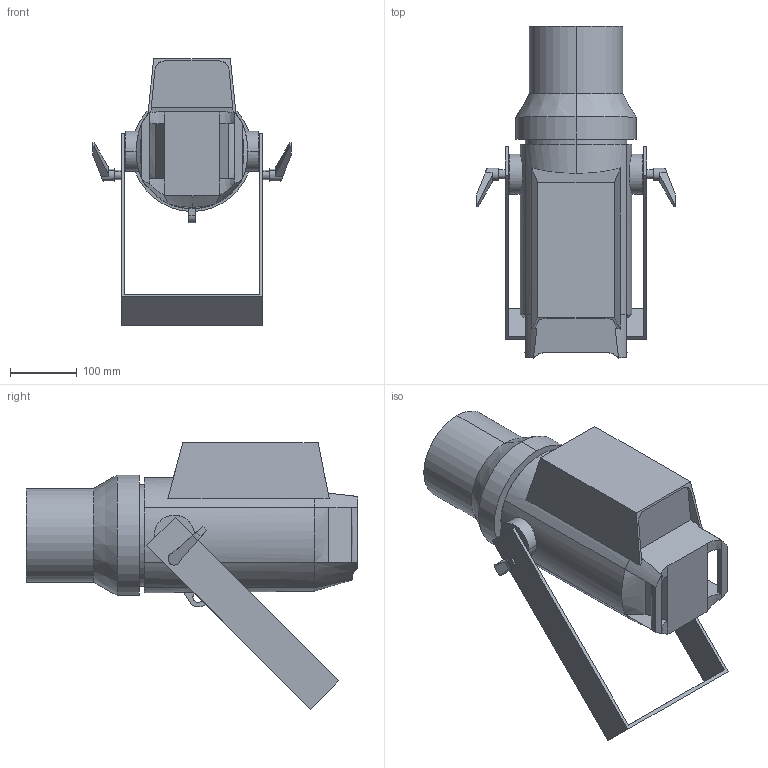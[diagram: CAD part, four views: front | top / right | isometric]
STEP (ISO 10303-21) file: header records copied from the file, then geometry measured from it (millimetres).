
FILE_DESCRIPTION((''),'2;1');
FILE_NAME('000_ASM','2026-04-16T15:29:07',('006374'),(''),'CREO PARAMETRIC BY PTC INC, 2018050','CREO PARAMETRIC BY PTC INC, 2018050','');
FILE_SCHEMA(('CONFIG_CONTROL_DESIGN'));
Length unit declared in the file: millimetre
Products named in the file (4): 00; 000; 32000539A-0001; 000_ASM
Assembly tree (4 placements, depth 2):
  000_ASM
    00
    000
    32000539A-0001  x2
Bounding box: 297.36 x 496.13 x 398.71 mm (x, y, z)
Volume: 11912495 mm3; surface area: 488547.2 mm2
Topology: 4 solids, 6 shells, 134 faces, 330 edges, 210 vertices
Faces by surface type: plane 69, cylinder 40, bspline 18, extrusion 5, cone 2
Entity records: 4493 total; most frequent: CARTESIAN_POINT 1847, ORIENTED_EDGE 564, DIRECTION 454, EDGE_CURVE 282, VERTEX_POINT 178, VECTOR 156, LINE 151, AXIS2_PLACEMENT_3D 149
